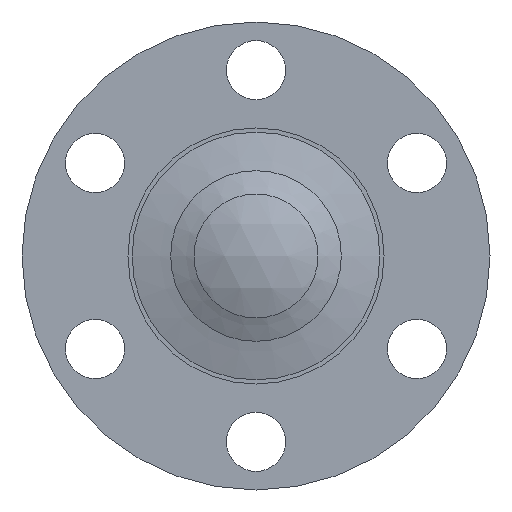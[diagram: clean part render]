
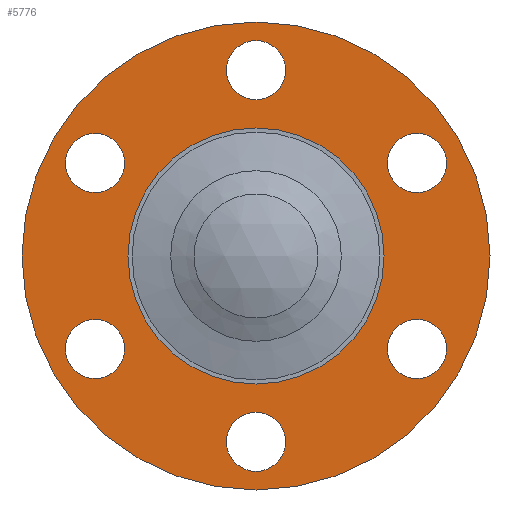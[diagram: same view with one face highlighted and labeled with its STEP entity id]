
A CAD part, left-side view. The second image highlights one B-rep face of the part: STEP entity #5776.
In plain terms, the highlighted planar face has unit normal (-1, 0, 0).
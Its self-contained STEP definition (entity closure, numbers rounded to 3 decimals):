
#5490=CARTESIAN_POINT('',(40.3,-9.829,-7.825));
#5491=VERTEX_POINT('',#5490);
#5492=CARTESIAN_POINT('',(40.3,-11.691,-6.75));
#5493=DIRECTION('',(1.0,0.,0.));
#5494=DIRECTION('',(0.,-0.866,0.5));
#5495=AXIS2_PLACEMENT_3D('',#5492,#5493,#5494);
#5496=CIRCLE('',#5495,2.15);
#5497=EDGE_CURVE('',#5491,#5491,#5496,.T.);
#5518=CARTESIAN_POINT('',(40.3,-11.691,4.6));
#5519=VERTEX_POINT('',#5518);
#5520=CARTESIAN_POINT('',(40.3,-11.691,6.75));
#5521=DIRECTION('',(1.0,0.0,0.0));
#5522=DIRECTION('',(0.0,0.0,1.0));
#5523=AXIS2_PLACEMENT_3D('',#5520,#5521,#5522);
#5524=CIRCLE('',#5523,2.15);
#5525=EDGE_CURVE('',#5519,#5519,#5524,.T.);
#5546=CARTESIAN_POINT('',(40.3,-1.862,12.425));
#5547=VERTEX_POINT('',#5546);
#5548=CARTESIAN_POINT('',(40.3,0.,13.5));
#5549=DIRECTION('',(1.0,0.,0.));
#5550=DIRECTION('',(0.,0.866,0.5));
#5551=AXIS2_PLACEMENT_3D('',#5548,#5549,#5550);
#5552=CIRCLE('',#5551,2.15);
#5553=EDGE_CURVE('',#5547,#5547,#5552,.T.);
#5574=CARTESIAN_POINT('',(40.3,9.829,7.825));
#5575=VERTEX_POINT('',#5574);
#5576=CARTESIAN_POINT('',(40.3,11.691,6.75));
#5577=DIRECTION('',(1.0,0.,0.));
#5578=DIRECTION('',(0.,0.866,-0.5));
#5579=AXIS2_PLACEMENT_3D('',#5576,#5577,#5578);
#5580=CIRCLE('',#5579,2.15);
#5581=EDGE_CURVE('',#5575,#5575,#5580,.T.);
#5602=CARTESIAN_POINT('',(40.3,1.862,-12.425));
#5603=VERTEX_POINT('',#5602);
#5604=CARTESIAN_POINT('',(40.3,0.,-13.5));
#5605=DIRECTION('',(1.0,0.,0.));
#5606=DIRECTION('',(0.,-0.866,-0.5));
#5607=AXIS2_PLACEMENT_3D('',#5604,#5605,#5606);
#5608=CIRCLE('',#5607,2.15);
#5609=EDGE_CURVE('',#5603,#5603,#5608,.T.);
#5630=CARTESIAN_POINT('',(40.3,11.691,-4.6));
#5631=VERTEX_POINT('',#5630);
#5632=CARTESIAN_POINT('',(40.3,11.691,-6.75));
#5633=DIRECTION('',(1.0,0.0,0.0));
#5634=DIRECTION('',(0.0,0.0,-1.0));
#5635=AXIS2_PLACEMENT_3D('',#5632,#5633,#5634);
#5636=CIRCLE('',#5635,2.15);
#5637=EDGE_CURVE('',#5631,#5631,#5636,.T.);
#5716=CARTESIAN_POINT('',(40.3,9.3,0.));
#5717=VERTEX_POINT('',#5716);
#5718=CARTESIAN_POINT('',(40.3,0.,0.));
#5719=DIRECTION('',(1.0,0.0,0.0));
#5720=DIRECTION('',(0.0,1.0,0.0));
#5721=AXIS2_PLACEMENT_3D('',#5718,#5719,#5720);
#5722=CIRCLE('',#5721,9.3);
#5723=EDGE_CURVE('',#5717,#5717,#5722,.T.);
#5739=CARTESIAN_POINT('',(40.3,13.15,0.));
#5740=DIRECTION('',(-1.0,0.0,0.0));
#5741=DIRECTION('',(0.0,0.0,1.0));
#5742=AXIS2_PLACEMENT_3D('',#5739,#5740,#5741);
#5743=PLANE('',#5742);
#5744=CARTESIAN_POINT('',(40.3,17.,0.));
#5745=VERTEX_POINT('',#5744);
#5746=CARTESIAN_POINT('',(40.3,0.,0.));
#5747=DIRECTION('',(1.0,0.0,0.0));
#5748=DIRECTION('',(0.0,1.0,0.0));
#5749=AXIS2_PLACEMENT_3D('',#5746,#5747,#5748);
#5750=CIRCLE('',#5749,17.);
#5751=EDGE_CURVE('',#5745,#5745,#5750,.T.);
#5752=ORIENTED_EDGE('',*,*,#5751,.F.);
#5753=EDGE_LOOP('',(#5752));
#5754=FACE_OUTER_BOUND('',#5753,.T.);
#5755=ORIENTED_EDGE('',*,*,#5497,.T.);
#5756=EDGE_LOOP('',(#5755));
#5757=FACE_BOUND('',#5756,.T.);
#5758=ORIENTED_EDGE('',*,*,#5525,.T.);
#5759=EDGE_LOOP('',(#5758));
#5760=FACE_BOUND('',#5759,.T.);
#5761=ORIENTED_EDGE('',*,*,#5553,.T.);
#5762=EDGE_LOOP('',(#5761));
#5763=FACE_BOUND('',#5762,.T.);
#5764=ORIENTED_EDGE('',*,*,#5581,.T.);
#5765=EDGE_LOOP('',(#5764));
#5766=FACE_BOUND('',#5765,.T.);
#5767=ORIENTED_EDGE('',*,*,#5609,.T.);
#5768=EDGE_LOOP('',(#5767));
#5769=FACE_BOUND('',#5768,.T.);
#5770=ORIENTED_EDGE('',*,*,#5637,.T.);
#5771=EDGE_LOOP('',(#5770));
#5772=FACE_BOUND('',#5771,.T.);
#5773=ORIENTED_EDGE('',*,*,#5723,.T.);
#5774=EDGE_LOOP('',(#5773));
#5775=FACE_BOUND('',#5774,.T.);
#5776=ADVANCED_FACE('',(#5754,#5757,#5760,#5763,#5766,#5769,#5772,#5775),#5743,.T.);
